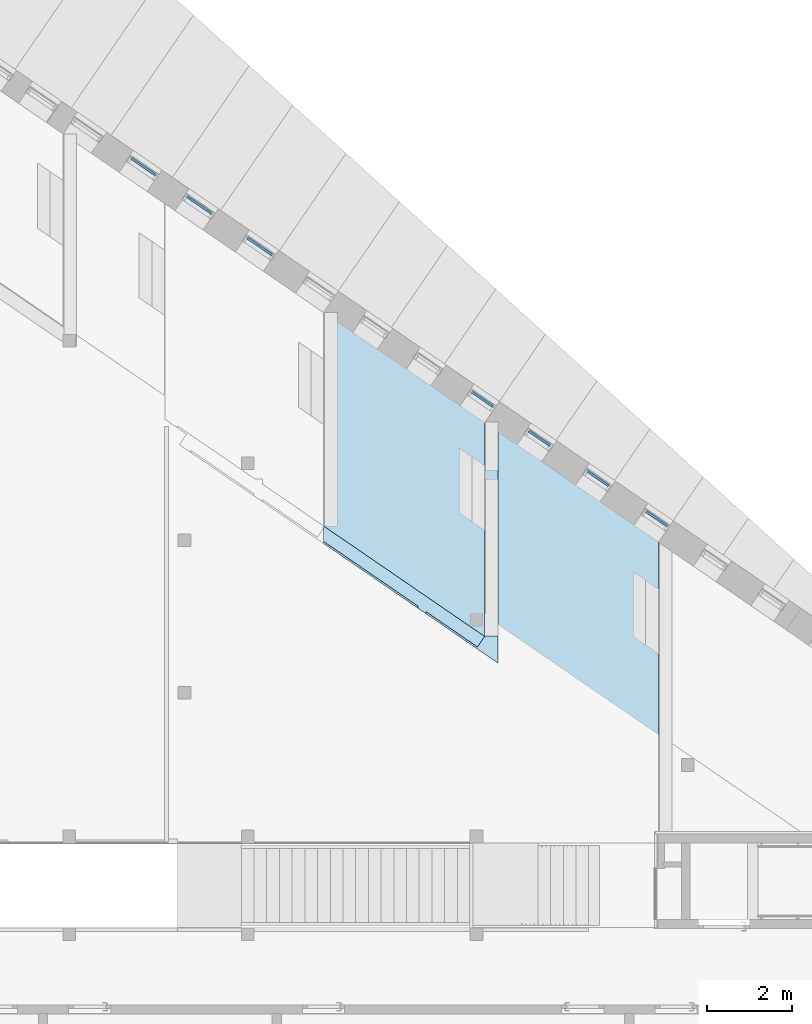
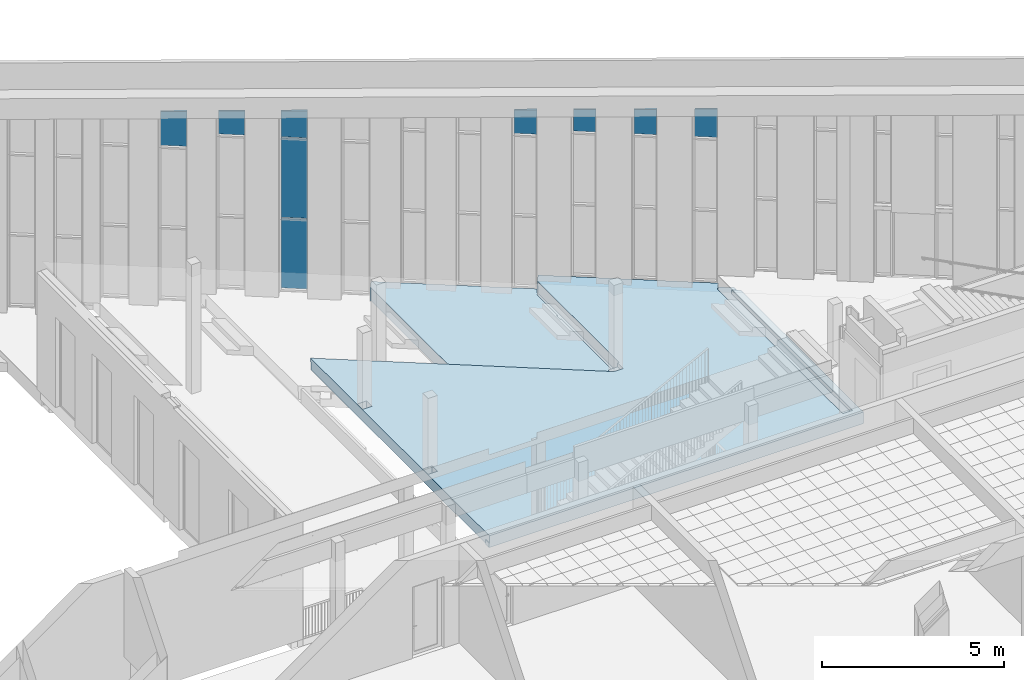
# One storey, part 35 of 79: 9 plates, 2 slabs, 7 elements without a shape of their own.
"""IFC2X3 building model written with IfcOpenShell, lengths in millimetres."""

from ifc_helpers import new_model, entity, si_unit, converted_unit, derived_unit, money_unit, direction, frame, origin_with_axes, place, context, subcontext, project, spatial, faceted_brep, material, material_list, type_object, element, aggregate, save


model = new_model("IFC2X3")

# Units and contexts
model_context = context("Model", 3, precision=0.01, world=origin_with_axes(), true_north=direction((0.0, 1.0)))
body_context = subcontext(model_context, "Body", "Model", "MODEL_VIEW")
ifc_project = project(units=[si_unit("LENGTHUNIT", "METRE", prefix="MILLI"), si_unit("AREAUNIT", "SQUARE_METRE"), si_unit("VOLUMEUNIT", "CUBIC_METRE"), converted_unit("PLANEANGLEUNIT", "DEGREE", entity("IfcPlaneAngleMeasure", 0.0174532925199), si_unit("PLANEANGLEUNIT", "RADIAN"), dimensions=[0, 0, 0, 0, 0, 0, 0]), si_unit("SOLIDANGLEUNIT", "STERADIAN"), money_unit("EUR"), converted_unit("TIMEUNIT", "Year", entity("IfcTimeMeasure", 31556926.0), si_unit("TIMEUNIT", "SECOND"), dimensions=[0, 0, 1, 0, 0, 0, 0]), si_unit("MASSUNIT", "GRAM", prefix="KILO"), si_unit("THERMODYNAMICTEMPERATUREUNIT", "DEGREE_CELSIUS"), si_unit("LUMINOUSINTENSITYUNIT", "LUMEN"), si_unit("ENERGYUNIT", "JOULE", prefix="MEGA"), derived_unit("THERMALCONDUCTANCEUNIT", [(si_unit("POWERUNIT", "WATT"), 1), (si_unit("LENGTHUNIT", "METRE"), -1), (si_unit("THERMODYNAMICTEMPERATUREUNIT", "KELVIN"), -1)]), derived_unit("SPECIFICHEATCAPACITYUNIT", [(si_unit("ENERGYUNIT", "JOULE"), 1), (si_unit("MASSUNIT", "GRAM", prefix="KILO"), -1), (si_unit("THERMODYNAMICTEMPERATUREUNIT", "KELVIN"), -1)]), derived_unit("MASSDENSITYUNIT", [(si_unit("MASSUNIT", "GRAM", prefix="KILO"), 1), (si_unit("VOLUMEUNIT", "CUBIC_METRE"), -1)])], contexts=[model_context])

# Site, building, storey
site_placement = place(None, origin_with_axes())
site = spatial("IfcSite", under=ifc_project, at=site_placement, Name="L.Koidula tn 11b", CompositionType="ELEMENT")
building_placement = place(site_placement, origin_with_axes())
building = spatial("IfcBuilding", under=site, at=building_placement, Name="Rakvere Riigigümnaasium", CompositionType="ELEMENT")
storey_placement = place(building_placement, frame((0.0, 0.0, 3720.0), z_axis=(0.0, 0.0, 1.0), x_axis=(1.0, 0.0, 0.0)))
storey = spatial("IfcBuildingStorey", under=building, at=storey_placement, Name="2.korrus +3,72", CompositionType="ELEMENT", Elevation=3720.0)

# Curtain wall, plate
curtain_wall_type = type_object("IfcCurtainWallType", Name="Curtain Wall Type", PredefinedType="NOTDEFINED")
curtain_wall_1_placement = place(storey_placement, frame((66033.4417184, 31187.4994723, -930.00009489), z_axis=(0.0, 0.0, 1.0), x_axis=(1.0, 0.0, 0.0)))
curtain_wall_1 = element("IfcCurtainWall", 1, at=curtain_wall_1_placement, inside=storey, type_object=curtain_wall_type, Name="KLF-06-15")
ifc_material_1 = material(Name="Klaaspakett 3x")
plate_type_1 = type_object("IfcPlateType", Name="Distinct Panel 726 x 2351 x 54", PredefinedType="CURTAIN_PANEL")
plate_1_placement = place(curtain_wall_1_placement, frame((0.19458261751, -0.133459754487, 1200.00009243), z_axis=(0.0, 0.0, 1.0), x_axis=(-0.824666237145, 0.565619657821, 0.0)))
plate_1 = element("IfcPlate", 2, at=plate_1_placement, type_object=plate_type_1, material=ifc_material_1, Name="KLF-06-15-Klaasid", ObjectType="CURTAIN_PANEL", context=body_context, shape_type="Brep", body=[
    faceted_brep([(-362.67960952, 27.0, 1188.0000915), (-362.67960952, -27.0, 1188.0000915), (362.892401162, -27.0, 1188.0000915), (362.892401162, 27.0, 1188.0000915), (-363.100716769, 27.0, -1163.00008958), (-363.100716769, -27.0, -1163.00008958), (362.892401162, -27.0, -1163.00008958), (362.892401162, 27.0, -1163.00008958)], [[[0, 1, 2, 3]], [[4, 5, 1, 0]], [[1, 5, 6, 2]], [[3, 2, 6, 7]], [[0, 3, 7, 4]], [[7, 6, 5, 4]]]),
])

curtain_wall_2_placement = place(storey_placement, frame((63291.7064528, 33067.985779, -1395.00012232), z_axis=(0.0, 0.0, 1.0), x_axis=(1.0, 0.0, 0.0)))
curtain_wall_2 = element("IfcCurtainWall", 3, at=curtain_wall_2_placement, inside=storey, type_object=curtain_wall_type, Name="KLF-06-17")
plate_type_2 = type_object("IfcPlateType", Name="Distinct Panel 726 x 1137 x 54", PredefinedType="CURTAIN_PANEL")
plate_2_placement = place(curtain_wall_2_placement, frame((0.0, 0.0, 5703.6568376), z_axis=(0.0, 0.0, 1.0), x_axis=(-0.824666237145, 0.565619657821, 0.0)))
plate_2 = element("IfcPlate", 4, at=plate_2_placement, type_object=plate_type_2, material=ifc_material_1, Name="KLF-06-17-Klaasid", ObjectType="CURTAIN_PANEL", context=body_context, shape_type="Brep", body=[
    faceted_brep([(-362.999972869, 27.0, 588.166754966), (-362.999972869, -27.0, 588.166754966), (362.999994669, -27.0, 545.01592382), (362.999994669, 27.0, 545.01592382), (-362.999972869, 27.0, -591.65664199), (-362.999972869, -27.0, -591.65664199), (362.999957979, -27.0, -591.65664199), (362.999957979, 27.0, -591.65664199)], [[[0, 1, 2, 3]], [[4, 5, 1, 0]], [[1, 5, 6, 2]], [[3, 2, 6, 7]], [[0, 3, 7, 4]], [[7, 6, 5, 4]]]),
])
aggregate(curtain_wall_2, [plate_2])

curtain_wall_3_placement = place(storey_placement, frame((64611.1746594, 32162.9974944, -930.000096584), z_axis=(0.0, 0.0, 1.0), x_axis=(1.0, 0.0, 0.0)))
curtain_wall_3 = element("IfcCurtainWall", 5, at=curtain_wall_3_placement, inside=storey, type_object=curtain_wall_type, Name="KLF-06-16")
plate_type_3 = type_object("IfcPlateType", Name="Distinct Panel 726 x 767 x 54", PredefinedType="CURTAIN_PANEL")
plate_3_placement = place(curtain_wall_3_placement, frame((0.0, 0.0, 5518.70601723), z_axis=(0.0, 0.0, 1.0), x_axis=(-0.824666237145, 0.565619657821, 0.0)))
plate_3 = element("IfcPlate", 6, at=plate_3_placement, type_object=plate_type_3, material=ifc_material_1, Name="KLF-06-16-Klaasid", ObjectType="CURTAIN_PANEL", context=body_context, shape_type="Brep", body=[
    faceted_brep([(-363.00003346, 27.0, 403.216068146), (-363.00003346, -27.0, 403.216068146), (363.00003772, -27.0, 360.065122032), (363.00003772, 27.0, 360.065122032), (-363.000046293, 27.0, -406.705893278), (-363.000046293, -27.0, -406.705893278), (363.000050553, -27.0, -406.705893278), (363.000050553, 27.0, -406.705893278)], [[[0, 1, 2, 3]], [[4, 5, 1, 0]], [[1, 5, 6, 2]], [[3, 2, 6, 7]], [[0, 3, 7, 4]], [[7, 6, 5, 4]]]),
])
aggregate(curtain_wall_3, [plate_3])

# Plate
plate_type_4 = type_object("IfcPlateType", Name="Distinct Panel 725 x 2676 x 54", PredefinedType="CURTAIN_PANEL")
plate_4_placement = place(curtain_wall_1_placement, frame((0.0, 0.0, 3750.00018486), z_axis=(0.0, 0.0, 1.0), x_axis=(-0.824666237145, 0.565619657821, 0.0)))
plate_4 = element("IfcPlate", 7, at=plate_4_placement, type_object=plate_type_4, material=ifc_material_1, Name="KLF-06-15-Klaasid", ObjectType="CURTAIN_PANEL", context=body_context, shape_type="Brep", body=[
    faceted_brep([(-362.401779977, 27.0, 1338.00001341), (-362.401779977, -27.0, 1338.00001341), (362.656455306, -27.0, 1338.00001341), (362.656455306, 27.0, 1338.00001341), (-362.911131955, 27.0, -1338.00001341), (-362.911131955, -27.0, -1338.00001341), (362.656455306, -27.0, -1338.00001341), (362.656455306, 27.0, -1338.00001341)], [[[0, 1, 2, 3]], [[4, 5, 1, 0]], [[1, 5, 6, 2]], [[3, 2, 6, 7]], [[0, 3, 7, 4]], [[7, 6, 5, 4]]]),
])

plate_type_5 = type_object("IfcPlateType", Name="Distinct Panel 725 x 869 x 54", PredefinedType="CURTAIN_PANEL")
plate_5_placement = place(curtain_wall_1_placement, frame((65.7425871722, -45.091332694, 5634.69307532), z_axis=(0.0, 0.0, 1.0), x_axis=(-0.824666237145, 0.565619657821, 0.0)))
plate_5 = element("IfcPlate", 8, at=plate_5_placement, type_object=plate_type_5, material=ifc_material_1, Name="KLF-06-15-Klaasid", ObjectType="CURTAIN_PANEL", context=body_context, shape_type="Brep", body=[
    faceted_brep([(-282.537075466, 27.0, 389.692360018), (-282.537075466, -27.0, 389.692360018), (442.376687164, -27.0, 346.606023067), (442.376687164, 27.0, 346.606023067), (-282.537075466, 27.0, 258.953486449), (-282.537075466, -27.0, 258.953486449), (-282.67708072, -27.0, -522.692889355), (442.376687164, -27.0, -522.692889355), (442.376687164, 27.0, -522.692889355), (-282.67708072, 27.0, -522.692889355)], [[[0, 1, 2, 3]], [[4, 5, 1, 0]], [[1, 5, 6, 7, 2]], [[3, 2, 7, 8]], [[0, 3, 8, 9, 4]], [[9, 6, 5, 4]], [[8, 7, 6, 9]]]),
])

aggregate(curtain_wall_1, [plate_4, plate_5, plate_1])

# Curtain wall, plate
curtain_wall_4_placement = place(storey_placement, frame((71295.0958138, 27578.652128, -465.0), z_axis=(0.0, 0.0, 1.0), x_axis=(1.0, 0.0, 0.0)))
curtain_wall_4 = element("IfcCurtainWall", 9, at=curtain_wall_4_placement, inside=storey, type_object=curtain_wall_type, Name="KLF-06-11")
plate_type_6 = type_object("IfcPlateType", Name="Distinct Panel 626 x 786 x 54", PredefinedType="CURTAIN_PANEL")
plate_6_placement = place(curtain_wall_4_placement, frame((0.0, 0.0, 5527.07233114), z_axis=(0.0, 0.0, 1.0), x_axis=(-0.824666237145, 0.565619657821, 0.0)))
plate_6 = element("IfcPlate", 10, at=plate_6_placement, type_object=plate_type_6, material=ifc_material_1, Name="KLF-06-11-Klaasid", ObjectType="CURTAIN_PANEL", context=body_context, shape_type="Brep", body=[
    faceted_brep([(-312.999897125, 27.0, 408.610584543), (-312.999897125, -27.0, 408.610584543), (312.999875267, -27.0, 371.403355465), (312.999875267, 27.0, 371.403355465), (-312.999884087, 27.0, -415.072262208), (-312.999884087, -27.0, -415.072262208), (312.999914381, -27.0, -415.072262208), (312.999914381, 27.0, -415.072262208)], [[[0, 1, 2, 3]], [[4, 5, 1, 0]], [[1, 5, 6, 2]], [[3, 2, 6, 7]], [[0, 3, 7, 4]], [[7, 6, 5, 4]]]),
])
aggregate(curtain_wall_4, [plate_6])

curtain_wall_5_placement = place(storey_placement, frame((72639.3001548, 26656.6898396, 0.0), z_axis=(0.0, 0.0, 1.0), x_axis=(1.0, 0.0, 0.0)))
curtain_wall_5 = element("IfcCurtainWall", 11, at=curtain_wall_5_placement, inside=storey, type_object=curtain_wall_type, Name="KLF-06-10")
plate_type_7 = type_object("IfcPlateType", Name="Distinct Panel 626 x 718 x 54", PredefinedType="CURTAIN_PANEL")
plate_7_placement = place(curtain_wall_5_placement, frame((0.0, 0.0, 5193.01306707), z_axis=(0.0, 0.0, 1.0), x_axis=(-0.824666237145, 0.565619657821, 0.0)))
plate_7 = element("IfcPlate", 12, at=plate_7_placement, type_object=plate_type_7, material=ifc_material_1, Name="KLF-06-10-Klaasid", ObjectType="CURTAIN_PANEL", context=body_context, shape_type="Brep", body=[
    faceted_brep([(-312.999936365, 27.0, 374.551304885), (-312.999936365, -27.0, 374.551304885), (313.000026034, -27.0, 337.344100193), (313.000026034, 27.0, 337.344100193), (-312.999936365, 27.0, -381.013004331), (-312.999936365, -27.0, -381.013004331), (312.999845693, -27.0, -381.013004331), (312.999845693, 27.0, -381.013004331)], [[[0, 1, 2, 3]], [[4, 5, 1, 0]], [[1, 5, 6, 2]], [[3, 2, 6, 7]], [[0, 3, 7, 4]], [[7, 6, 5, 4]]]),
])
aggregate(curtain_wall_5, [plate_7])

curtain_wall_6_placement = place(storey_placement, frame((74020.6159263, 25709.2765329, 0.0), z_axis=(0.0, 0.0, 1.0), x_axis=(1.0, 0.0, 0.0)))
curtain_wall_6 = element("IfcCurtainWall", 13, at=curtain_wall_6_placement, inside=storey, type_object=curtain_wall_type, Name="KLF-06-09")
plate_type_8 = type_object("IfcPlateType", Name="Distinct Panel 626 x 818 x 54", PredefinedType="CURTAIN_PANEL")
plate_8_placement = place(curtain_wall_6_placement, frame((0.0, 0.0, 5242.79115467), z_axis=(0.0, 0.0, 1.0), x_axis=(-0.824666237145, 0.565619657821, 0.0)))
plate_8 = element("IfcPlate", 14, at=plate_8_placement, type_object=plate_type_8, material=ifc_material_1, Name="KLF-06-09-Klaasid", ObjectType="CURTAIN_PANEL", context=body_context, shape_type="Brep", body=[
    faceted_brep([(-312.999899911, 27.0, 424.329448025), (-312.999899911, -27.0, 424.329448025), (313.000079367, -27.0, 387.122145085), (313.000079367, 27.0, 387.122145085), (-313.000102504, 27.0, -430.791086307), (-313.000102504, -27.0, -430.791086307), (312.999903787, -27.0, -430.791086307), (312.999903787, 27.0, -430.791086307)], [[[0, 1, 2, 3]], [[4, 5, 1, 0]], [[1, 5, 6, 2]], [[3, 2, 6, 7]], [[0, 3, 7, 4]], [[7, 6, 5, 4]]]),
])
aggregate(curtain_wall_6, [plate_8])

curtain_wall_7_placement = place(storey_placement, frame((75401.9316286, 24761.8632578, 0.0), z_axis=(0.0, 0.0, 1.0), x_axis=(1.0, 0.0, 0.0)))
curtain_wall_7 = element("IfcCurtainWall", 15, at=curtain_wall_7_placement, inside=storey, type_object=curtain_wall_type, Name="KLF-06-08")
plate_type_9 = type_object("IfcPlateType", Name="Distinct Panel 626 x 917 x 54", PredefinedType="CURTAIN_PANEL")
plate_9_placement = place(curtain_wall_7_placement, frame((-1.29880390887e-05, 8.9081986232e-06, 5292.56921371), z_axis=(0.0, 0.0, 1.0), x_axis=(-0.824666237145, 0.565619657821, 0.0)))
plate_9 = element("IfcPlate", 16, at=plate_9_placement, type_object=plate_type_9, material=ifc_material_1, Name="KLF-06-08-Klaasid", ObjectType="CURTAIN_PANEL", context=body_context, shape_type="Brep", body=[
    faceted_brep([(-312.999896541, 27.0, 474.107515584), (-312.999896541, -27.0, 474.107515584), (313.00005068, -27.0, 436.900205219), (313.00005068, 27.0, 436.900205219), (-313.000016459, 27.0, -480.569155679), (-313.000016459, -27.0, -480.569155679), (312.999840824, -27.0, -480.569155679), (312.999840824, 27.0, -480.569155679)], [[[0, 1, 2, 3]], [[4, 5, 1, 0]], [[1, 5, 6, 2]], [[3, 2, 6, 7]], [[0, 3, 7, 4]], [[7, 6, 5, 4]]]),
])
aggregate(curtain_wall_7, [plate_9])

# Slabs
ifc_material_2 = material(Name="Parkett")
ifc_material_3 = material(Name="Betoon")
ifc_material_4 = material(Name="Mürasummutus vill")
ifc_material_5 = material(Name="Betoon õõnespaneel")
ifc_material_list = material_list([ifc_material_2, ifc_material_3, ifc_material_4, ifc_material_5])
slab_type_1 = type_object("IfcSlabType", Name="VL-03 445", PredefinedType="NOTDEFINED")
slab_1_placement = place(storey_placement, frame((67710.3477516, 29874.8581055, -465.0), z_axis=(0.0, 0.0, 1.0), x_axis=(1.0, 0.0, 0.0)))
element("IfcSlab", 17, at=slab_1_placement, inside=storey, type_object=slab_type_1, material=ifc_material_list, Name="Suured astmed", PredefinedType="NOTDEFINED", context=body_context, shape_type="Brep", body=[
    faceted_brep([(2054.6395782, -7173.68883036, -10.0), (2054.6395782, -7173.68883036, 0.0), (2054.6395782, -7223.40251503, 0.0), (2054.6395782, -7223.40251503, -10.0), (-165.33824964, -5651.1462538, 4.02478050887e-09), (-165.33824964, -5651.1462538, -9.99999999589), (-165.33824964, -5700.86031053, 0.0), (-165.33824964, -5700.86031053, -10.0)], [[[0, 1, 2, 3]], [[4, 1, 0, 5]], [[1, 4, 6, 2]], [[3, 2, 6, 7]], [[5, 0, 3, 7]], [[4, 5, 7, 6]]]),
    faceted_brep([(3463.72556272, -8140.09190815, 0.0), (2254.6395782, -7310.8561982, 0.0), (2254.6395782, -7360.56984935, 0.0), (3949.65030634, -8523.07036548, 0.0), (3949.6503213, -7877.05428676, 0.0), (3629.6503213, -7877.05428676, 0.0), (3629.6503213, -4175.42087358, 0.0), (3590.78957189, -4175.42087358, 0.0), (3590.78957189, -3975.42087358, 0.0), (3629.6503213, -3975.42087358, 0.0), (3629.6503213, -2853.276923, 0.0), (3799.33652425, -2605.87726147, 0.0), (0.0, 0.0, 0.0), (-165.33824964, -241.186872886, 0.0), (-165.33824964, -250.385662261, 0.0), (-155.33824964, -257.244421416, 0.0), (-155.33824964, -5294.23038187, 0.0), (-145.031093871, -5301.29693856, 0.0), (3633.40469198, -7892.68739507, 0.0), (3463.72556272, -8140.09190815, -10.0), (2254.6395782, -7310.8561982, -10.0), (2254.6395782, -7360.56984935, -10.0), (3949.65030634, -8523.07036548, -10.0), (3949.6503213, -7877.05428676, -10.0), (3629.6503213, -7877.05428676, -10.0), (3629.6503213, -4175.42087358, -10.0), (3590.78957189, -4175.42087358, -10.0), (3590.78957189, -3975.42087358, -10.0), (3629.6503213, -3975.42087358, -10.0), (3629.6503213, -2853.276923, -10.0), (3799.33652425, -2605.87726147, -10.0), (0.0, 0.0, -10.0), (-165.33824964, -241.186872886, -10.0), (-165.33824964, -250.385662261, -10.0), (-155.33824964, -257.244421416, -10.0), (-155.33824964, -5294.23038187, -10.0), (-145.031093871, -5301.29693856, -10.0), (3633.40469198, -7892.68739507, -10.0)], [[[0, 1, 2, 3, 4, 5, 6, 7, 8, 9, 10, 11, 12, 13, 14, 15, 16, 17, 18]], [[1, 0, 19, 20]], [[1, 20, 21, 2]], [[2, 21, 22, 3]], [[4, 3, 22, 23]], [[4, 23, 24, 5]], [[24, 25, 6, 5]], [[7, 6, 25, 26]], [[27, 8, 7, 26]], [[27, 28, 9, 8]], [[28, 29, 10, 9]], [[11, 10, 29, 30]], [[12, 11, 30, 31]], [[32, 13, 12, 31]], [[33, 14, 13, 32]], [[15, 14, 33, 34]], [[16, 15, 34, 35]], [[36, 17, 16, 35]], [[18, 17, 36, 37]], [[0, 18, 37, 19]], [[37, 36, 35, 34, 33, 32, 31, 30, 29, 28, 27, 26, 25, 24, 23, 22, 21, 20, 19]]]),
    faceted_brep([(2054.6395782, -7173.68883036, -100.0), (2054.6395782, -7173.68883036, -10.0), (2054.6395782, -7223.40251503, -10.0), (2054.6395782, -7223.40251503, -100.0), (-165.33824964, -5651.1462538, -10.0), (-165.33824964, -5651.1462538, -99.9999999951), (-165.33824964, -5700.86031053, -10.0), (-165.33824964, -5700.86031053, -100.0)], [[[0, 1, 2, 3]], [[4, 1, 0, 5]], [[1, 4, 6, 2]], [[3, 2, 6, 7]], [[5, 0, 3, 7]], [[4, 5, 7, 6]]]),
    faceted_brep([(3463.72556272, -8140.09190815, -10.0), (2254.6395782, -7310.8561982, -10.0), (2254.6395782, -7360.56984935, -10.0), (3949.65030634, -8523.07036548, -10.0), (3949.6503213, -7877.05428676, -10.0), (3629.6503213, -7877.05428676, -10.0), (3629.6503213, -4175.42087358, -10.0), (3590.78957189, -4175.42087358, -10.0), (3590.78957189, -3975.42087358, -10.0), (3629.6503213, -3975.42087358, -10.0), (3629.6503213, -2853.276923, -10.0), (3799.33652425, -2605.87726147, -10.0), (0.0, 0.0, -10.0), (-165.33824964, -241.186872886, -10.0), (-165.33824964, -250.385662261, -10.0), (-155.33824964, -257.244421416, -10.0), (-155.33824964, -5294.23038187, -10.0), (-145.031093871, -5301.29693856, -10.0), (3633.40469198, -7892.68739507, -10.0), (3463.72556272, -8140.09190815, -100.0), (2254.6395782, -7310.8561982, -100.0), (2254.6395782, -7360.56984935, -100.0), (3949.65030634, -8523.07036548, -100.0), (3949.6503213, -7877.05428676, -100.0), (3629.6503213, -7877.05428676, -100.0), (3629.6503213, -4175.42087358, -100.0), (3590.78957189, -4175.42087358, -100.0), (3590.78957189, -3975.42087358, -100.0), (3629.6503213, -3975.42087358, -100.0), (3629.6503213, -2853.276923, -100.0), (3799.33652425, -2605.87726147, -100.0), (0.0, 0.0, -100.0), (-165.33824964, -241.186872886, -100.0), (-165.33824964, -250.385662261, -100.0), (-155.33824964, -257.244421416, -100.0), (-155.33824964, -5294.23038187, -100.0), (-145.031093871, -5301.29693856, -100.0), (3633.40469198, -7892.68739507, -100.0)], [[[0, 1, 2, 3, 4, 5, 6, 7, 8, 9, 10, 11, 12, 13, 14, 15, 16, 17, 18]], [[1, 0, 19, 20]], [[1, 20, 21, 2]], [[2, 21, 22, 3]], [[4, 3, 22, 23]], [[4, 23, 24, 5]], [[24, 25, 6, 5]], [[7, 6, 25, 26]], [[27, 8, 7, 26]], [[27, 28, 9, 8]], [[28, 29, 10, 9]], [[11, 10, 29, 30]], [[12, 11, 30, 31]], [[32, 13, 12, 31]], [[33, 14, 13, 32]], [[15, 14, 33, 34]], [[16, 15, 34, 35]], [[36, 17, 16, 35]], [[18, 17, 36, 37]], [[0, 18, 37, 19]], [[37, 36, 35, 34, 33, 32, 31, 30, 29, 28, 27, 26, 25, 24, 23, 22, 21, 20, 19]]]),
    faceted_brep([(2054.6395782, -7173.68883036, -180.0), (2054.6395782, -7173.68883036, -100.0), (2054.6395782, -7223.40251503, -100.0), (2054.6395782, -7223.40251503, -180.0), (-165.33824964, -5651.1462538, -100.0), (-165.33824964, -5651.1462538, -180.0), (-165.33824964, -5700.86031053, -100.0), (-165.33824964, -5700.86031053, -180.0)], [[[0, 1, 2, 3]], [[4, 1, 0, 5]], [[1, 4, 6, 2]], [[3, 2, 6, 7]], [[5, 0, 3, 7]], [[4, 5, 7, 6]]]),
    faceted_brep([(3463.72556272, -8140.09190815, -100.0), (2254.6395782, -7310.8561982, -100.0), (2254.6395782, -7360.56984935, -100.0), (3949.65030634, -8523.07036548, -100.0), (3949.6503213, -7877.05428676, -100.0), (3629.6503213, -7877.05428676, -100.0), (3629.6503213, -4175.42087358, -100.0), (3590.78957189, -4175.42087358, -100.0), (3590.78957189, -3975.42087358, -100.0), (3629.6503213, -3975.42087358, -100.0), (3629.6503213, -2853.276923, -100.0), (3799.33652425, -2605.87726147, -100.0), (0.0, 0.0, -100.0), (-165.33824964, -241.186872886, -100.0), (-165.33824964, -250.385662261, -100.0), (-155.33824964, -257.244421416, -100.0), (-155.33824964, -5294.23038187, -100.0), (-145.031093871, -5301.29693856, -100.0), (3633.40469198, -7892.68739507, -100.0), (3463.72556272, -8140.09190815, -180.0), (2254.6395782, -7310.8561982, -180.0), (2254.6395782, -7360.56984935, -180.0), (3949.65030634, -8523.07036548, -180.0), (3949.6503213, -7877.05428676, -180.0), (3629.6503213, -7877.05428676, -180.0), (3629.6503213, -4175.42087358, -180.0), (3590.78957189, -4175.42087358, -180.0), (3590.78957189, -3975.42087358, -180.0), (3629.6503213, -3975.42087358, -180.0), (3629.6503213, -2853.276923, -180.0), (3799.33652425, -2605.87726147, -180.0), (0.0, 0.0, -180.0), (-165.33824964, -241.186872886, -180.0), (-165.33824964, -250.385662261, -180.0), (-155.33824964, -257.244421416, -180.0), (-155.33824964, -5294.23038187, -180.0), (-145.031093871, -5301.29693856, -180.0), (3633.40469198, -7892.68739507, -180.0)], [[[0, 1, 2, 3, 4, 5, 6, 7, 8, 9, 10, 11, 12, 13, 14, 15, 16, 17, 18]], [[1, 0, 19, 20]], [[1, 20, 21, 2]], [[2, 21, 22, 3]], [[4, 3, 22, 23]], [[4, 23, 24, 5]], [[24, 25, 6, 5]], [[7, 6, 25, 26]], [[27, 8, 7, 26]], [[27, 28, 9, 8]], [[28, 29, 10, 9]], [[11, 10, 29, 30]], [[12, 11, 30, 31]], [[32, 13, 12, 31]], [[33, 14, 13, 32]], [[15, 14, 33, 34]], [[16, 15, 34, 35]], [[36, 17, 16, 35]], [[18, 17, 36, 37]], [[0, 18, 37, 19]], [[37, 36, 35, 34, 33, 32, 31, 30, 29, 28, 27, 26, 25, 24, 23, 22, 21, 20, 19]]]),
    faceted_brep([(-145.33824964, -264.103180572, -180.0), (-145.33824964, -5301.08635344, -180.0), (-165.33824964, -5287.37441031, -180.0), (-165.33824964, -5700.86031053, -180.0), (3949.65030634, -8523.07036548, -180.0), (3949.65044095, -2708.97365417, -180.0), (0.0, 0.0, -180.0), (-165.33824964, -241.186872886, -180.0), (-165.33824964, -250.385662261, -180.0), (-145.33824964, -5301.08635344, -445.0), (-145.33824964, -264.103180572, -445.0), (-165.33824964, -5287.37441031, -445.0), (-165.33824964, -5700.86031053, -445.0), (3949.65030634, -8523.07036548, -445.0), (3949.65044095, -2708.97365417, -445.0), (0.0, 0.0, -445.0), (-165.33824964, -241.186872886, -445.0), (-165.33824964, -250.385662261, -445.0)], [[[0, 1, 2, 3, 4, 5, 6, 7, 8]], [[9, 1, 0, 10]], [[2, 1, 9, 11]], [[3, 2, 11, 12]], [[4, 3, 12, 13]], [[5, 4, 13, 14]], [[6, 5, 14, 15]], [[7, 6, 15, 16]], [[16, 17, 8, 7]], [[17, 10, 0, 8]], [[9, 10, 17, 16, 15, 14, 13, 12, 11]]]),
])
slab_type_2 = type_object("IfcSlabType", Name="VL-01 395", PredefinedType="NOTDEFINED")
slab_2_placement = place(storey_placement, frame((70999.998123, 22218.7533222, 0.0), z_axis=(0.0, 0.0, 1.0), x_axis=(1.0, 0.0, 0.0)))
element("IfcSlab", 18, at=slab_2_placement, inside=storey, type_object=slab_type_2, material=ifc_material_list, Name="Astmed", PredefinedType="NOTDEFINED", context=body_context, shape_type="Brep", body=[
    faceted_brep([(299.999949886, 1.45192373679e-05, -10.0), (299.999949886, 300.000014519, -10.0), (339.999949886, 299.999960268, -10.0), (349.999949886, 299.999960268, -10.0), (349.999949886, 4795.9690715, -10.0), (339.999992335, 4802.82205244, -10.0000000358), (509.688477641, 5050.22573048, -10.0), (4614.77146797, 2234.63450514, -10.0), (4445.089857, 1987.24084583, -10.0), (4445.089857, -4898.29778061, -10.0), (4765.089857, -4898.29778061, -10.0), (4765.089857, 1767.7674956, -10.0), (4979.98176475, 1620.37806475, -10.0), (4979.98176475, -5108.29781741, -10.0), (-6899.99812269, -5108.29779969, -10.0), (-6899.99812269, 4730.61909011, -10.0), (-5.01137691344e-05, 1.45192373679e-05, -10.0), (-6889.97719199, -1718.2901615, -10.0), (-6589.97719199, -1718.2901615, -10.0), (-6589.97719199, -1418.2901615, -10.0), (-6889.97719199, -1418.2901615, -10.0), (-6889.97719199, 1881.70222499, -10.0), (-6589.97719199, 1881.70222499, -10.0), (-6589.97719199, 2181.70222499, -10.0), (-6889.97719199, 2181.70222499, -10.0), (299.999949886, 1.45192373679e-05, 0.0), (299.999949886, 300.000014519, 0.0), (339.999949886, 299.999960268, 0.0), (349.999949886, 299.999960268, 0.0), (349.999949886, 4795.9690715, 0.0), (339.999949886, 4802.82199055, 0.0), (509.688477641, 5050.22573048, 0.0), (4614.77146797, 2234.63450514, 0.0), (4445.089857, 1987.24084583, 0.0), (4445.089857, -4898.29778061, 0.0), (4765.089857, -4898.29778061, 0.0), (4765.089857, 1767.7674956, 0.0), (4979.98176475, 1620.37806475, 0.0), (4979.98176475, -5108.29781741, 0.0), (-6899.99812269, -5108.29779969, 0.0), (-6899.99812269, 4730.61909011, 0.0), (-5.01137691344e-05, 1.45192373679e-05, 0.0), (-6889.97719199, -1718.2901615, 0.0), (-6589.97719199, -1718.2901615, 0.0), (-6589.97719199, -1418.2901615, 0.0), (-6889.97719199, -1418.2901615, 0.0), (-6889.97719199, 1881.70222499, 0.0), (-6589.97719199, 1881.70222499, 0.0), (-6589.97719199, 2181.70222499, 0.0), (-6889.97719199, 2181.70222499, 0.0)], [[[0, 1, 2, 3, 4, 5, 6, 7, 8, 9, 10, 11, 12, 13, 14, 15, 16], [17, 18, 19, 20], [21, 22, 23, 24]], [[25, 26, 1, 0]], [[1, 26, 27, 2]], [[2, 27, 28, 3]], [[3, 28, 29, 4]], [[4, 29, 30, 5]], [[6, 5, 30, 31]], [[31, 32, 7, 6]], [[32, 33, 8, 7]], [[9, 8, 33, 34]], [[35, 10, 9, 34]], [[10, 35, 36, 11]], [[12, 11, 36, 37]], [[13, 12, 37, 38]], [[38, 39, 14, 13]], [[14, 39, 40, 15]], [[41, 16, 15, 40]], [[41, 25, 0, 16]], [[42, 43, 18, 17]], [[43, 44, 19, 18]], [[44, 45, 20, 19]], [[45, 42, 17, 20]], [[46, 47, 22, 21]], [[47, 48, 23, 22]], [[48, 49, 24, 23]], [[49, 46, 21, 24]], [[25, 41, 40, 39, 38, 37, 36, 35, 34, 33, 32, 31, 30, 29, 28, 27, 26], [42, 45, 44, 43], [46, 49, 48, 47]]]),
    faceted_brep([(299.999949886, 1.45192373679e-05, -100.0), (299.999949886, 300.000014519, -100.0), (339.999949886, 299.999960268, -100.0), (349.999949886, 299.999960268, -100.0), (349.999949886, 4795.9690715, -100.0), (340.000374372, 4802.82260944, -100.000000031), (509.688477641, 5050.22573048, -100.0), (4614.77146797, 2234.63450514, -100.0), (4445.089857, 1987.24084583, -100.0), (4445.089857, -4898.29778061, -100.0), (4765.089857, -4898.29778061, -100.0), (4765.089857, 1767.7674956, -100.0), (4979.98176475, 1620.37806475, -100.0), (4979.98176475, -5108.29781741, -100.0), (-6899.99812269, -5108.29779969, -100.0), (-6899.99812269, 4730.61909011, -100.0), (-5.01137691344e-05, 1.45192373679e-05, -100.0), (-6889.97719199, -1718.2901615, -100.0), (-6589.97719199, -1718.2901615, -100.0), (-6589.97719199, -1418.2901615, -100.0), (-6889.97719199, -1418.2901615, -100.0), (-6889.97719199, 1881.70222499, -100.0), (-6589.97719199, 1881.70222499, -100.0), (-6589.97719199, 2181.70222499, -100.0), (-6889.97719199, 2181.70222499, -100.0), (299.999949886, 1.45192373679e-05, -10.0), (299.999949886, 300.000014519, -10.0), (339.999949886, 299.999960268, -10.0), (349.999949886, 299.999960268, -10.0), (349.999949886, 4795.9690715, -10.0), (339.999992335, 4802.82205244, -10.0000000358), (509.688477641, 5050.22573048, -10.0), (4614.77146797, 2234.63450514, -10.0), (4445.089857, 1987.24084583, -10.0), (4445.089857, -4898.29778061, -10.0), (4765.089857, -4898.29778061, -10.0), (4765.089857, 1767.7674956, -10.0), (4979.98176475, 1620.37806475, -10.0), (4979.98176475, -5108.29781741, -10.0), (-6899.99812269, -5108.29779969, -10.0), (-6899.99812269, 4730.61909011, -10.0), (-5.01137691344e-05, 1.45192373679e-05, -10.0), (-6889.97719199, -1718.2901615, -10.0), (-6589.97719199, -1718.2901615, -10.0), (-6589.97719199, -1418.2901615, -10.0), (-6889.97719199, -1418.2901615, -10.0), (-6889.97719199, 1881.70222499, -10.0), (-6589.97719199, 1881.70222499, -10.0), (-6589.97719199, 2181.70222499, -10.0), (-6889.97719199, 2181.70222499, -10.0)], [[[0, 1, 2, 3, 4, 5, 6, 7, 8, 9, 10, 11, 12, 13, 14, 15, 16], [17, 18, 19, 20], [21, 22, 23, 24]], [[25, 26, 1, 0]], [[1, 26, 27, 2]], [[2, 27, 28, 3]], [[3, 28, 29, 4]], [[4, 29, 30, 5]], [[6, 5, 30, 31]], [[31, 32, 7, 6]], [[32, 33, 8, 7]], [[9, 8, 33, 34]], [[35, 10, 9, 34]], [[10, 35, 36, 11]], [[12, 11, 36, 37]], [[13, 12, 37, 38]], [[38, 39, 14, 13]], [[14, 39, 40, 15]], [[41, 16, 15, 40]], [[41, 25, 0, 16]], [[42, 43, 18, 17]], [[43, 44, 19, 18]], [[44, 45, 20, 19]], [[45, 42, 17, 20]], [[46, 47, 22, 21]], [[47, 48, 23, 22]], [[48, 49, 24, 23]], [[49, 46, 21, 24]], [[25, 41, 40, 39, 38, 37, 36, 35, 34, 33, 32, 31, 30, 29, 28, 27, 26], [42, 45, 44, 43], [46, 49, 48, 47]]]),
    faceted_brep([(299.999949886, 1.45192373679e-05, -130.0), (299.999949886, 300.000014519, -130.0), (339.999907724, 299.999960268, -130.0), (349.999949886, 299.999960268, -130.0), (349.999949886, 4795.9690715, -130.0), (339.999907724, 4802.82192907, -130.0), (509.688477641, 5050.22573048, -130.0), (4614.77146797, 2234.63450514, -130.0), (4445.089857, 1987.24084583, -130.0), (4445.089857, -4898.29778061, -130.0), (4765.089857, -4898.29778061, -130.0), (4765.089857, 1767.7674956, -130.0), (4979.98176475, 1620.37806475, -130.0), (4979.98176475, -5108.29781741, -130.0), (-6899.99812269, -5108.29779969, -130.0), (-6899.99812269, 4730.61909011, -130.0), (-5.01137691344e-05, 1.45192373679e-05, -130.0), (-6889.97719199, -1718.2901615, -130.0), (-6589.97719199, -1718.2901615, -130.0), (-6589.97719199, -1418.2901615, -130.0), (-6889.97719199, -1418.2901615, -130.0), (-6889.97719199, 1881.70222499, -130.0), (-6589.97719199, 1881.70222499, -130.0), (-6589.97719199, 2181.70222499, -130.0), (-6889.97719199, 2181.70222499, -130.0), (299.999949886, 1.45192373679e-05, -100.0), (299.999949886, 300.000014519, -100.0), (339.999907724, 299.999960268, -100.0), (349.999949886, 299.999960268, -100.0), (349.999949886, 4795.9690715, -100.0), (339.999907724, 4802.82192907, -100.0), (509.688477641, 5050.22573048, -100.0), (4614.77146797, 2234.63450514, -100.0), (4445.089857, 1987.24084583, -100.0), (4445.089857, -4898.29778061, -100.0), (4765.089857, -4898.29778061, -100.0), (4765.089857, 1767.7674956, -100.0), (4979.98176475, 1620.37806475, -100.0), (4979.98176475, -5108.29781741, -100.0), (-6899.99812269, -5108.29779969, -100.0), (-6899.99812269, 4730.61909011, -100.0), (-5.01137691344e-05, 1.45192373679e-05, -100.0), (-6889.97719199, -1718.2901615, -100.0), (-6589.97719199, -1718.2901615, -100.0), (-6589.97719199, -1418.2901615, -100.0), (-6889.97719199, -1418.2901615, -100.0), (-6889.97719199, 1881.70222499, -100.0), (-6589.97719199, 1881.70222499, -100.0), (-6589.97719199, 2181.70222499, -100.0), (-6889.97719199, 2181.70222499, -100.0)], [[[0, 1, 2, 3, 4, 5, 6, 7, 8, 9, 10, 11, 12, 13, 14, 15, 16], [17, 18, 19, 20], [21, 22, 23, 24]], [[25, 26, 1, 0]], [[1, 26, 27, 2]], [[3, 2, 27, 28]], [[28, 29, 4, 3]], [[5, 4, 29, 30]], [[31, 6, 5, 30]], [[31, 32, 7, 6]], [[32, 33, 8, 7]], [[33, 34, 9, 8]], [[35, 10, 9, 34]], [[36, 11, 10, 35]], [[37, 12, 11, 36]], [[37, 38, 13, 12]], [[14, 13, 38, 39]], [[15, 14, 39, 40]], [[41, 16, 15, 40]], [[41, 25, 0, 16]], [[42, 43, 18, 17]], [[43, 44, 19, 18]], [[44, 45, 20, 19]], [[45, 42, 17, 20]], [[46, 47, 22, 21]], [[47, 48, 23, 22]], [[48, 49, 24, 23]], [[49, 46, 21, 24]], [[25, 41, 40, 39, 38, 37, 36, 35, 34, 33, 32, 31, 30, 29, 28, 27, 26], [42, 45, 44, 43], [46, 49, 48, 47]]]),
    faceted_brep([(359.999949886, 299.999960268, -395.0), (359.999949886, 4789.11028269, -395.0), (340.001626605, 4802.82443518, -395.000000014), (509.688477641, 5050.22573048, -395.0), (4979.98176475, 1984.14434223, -395.0), (4979.98176475, -5108.29781741, -395.0), (-6909.97719199, -5108.29781741, -395.0), (-6909.97719199, -4908.29779969, -395.0), (-6889.99812269, -4908.29779969, -395.0), (-6889.99812269, 4723.76311855, -395.0), (0.0, 0.0, -395.0), (0.0, 299.999960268, -395.0), (339.999949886, 299.999960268, -395.0), (-6889.97719199, -1718.2901615, -395.0), (-6589.97719199, -1718.2901615, -395.0), (-6589.97719199, -1418.2901615, -395.0), (-6889.97719199, -1418.2901615, -395.0), (-6889.97719199, 1881.70222499, -395.0), (-6589.97719199, 1881.70222499, -395.0), (-6589.97719199, 2181.70222499, -395.0), (-6889.97719199, 2181.70222499, -395.0), (359.999949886, 299.999960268, -130.0), (359.999949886, 4789.11028269, -130.0), (340.000501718, 4802.82279511, -130.000000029), (509.688477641, 5050.22573048, -130.0), (4979.98176475, 1984.14434223, -130.0), (4979.98176475, -5108.29781741, -130.0), (-6889.99812269, -5108.29779969, -130.0), (-6889.99812269, -5108.29779969, -250.0), (-6909.97719199, -5108.29779969, -250.0), (-6909.97719199, -4908.29779969, -250.0), (-6889.99812269, -4908.29779969, -250.0), (-6889.99812269, 4723.76311855, -130.0), (0.0, 0.0, -130.0), (0.0, 299.999960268, -130.0), (339.999949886, 299.999960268, -130.0), (-6889.97719199, -1718.2901615, -130.0), (-6589.97719199, -1718.2901615, -130.0), (-6589.97719199, -1418.2901615, -130.0), (-6889.97719199, -1418.2901615, -130.0), (-6889.97719199, 1881.70222499, -130.0), (-6589.97719199, 1881.70222499, -130.0), (-6589.97719199, 2181.70222499, -130.0), (-6889.97719199, 2181.70222499, -130.0)], [[[0, 1, 2, 3, 4, 5, 6, 7, 8, 9, 10, 11, 12], [13, 14, 15, 16], [17, 18, 19, 20]], [[0, 21, 22, 1]], [[2, 1, 22, 23]], [[3, 2, 23, 24]], [[24, 25, 4, 3]], [[25, 26, 5, 4]], [[27, 28, 29, 6, 5, 26]], [[29, 30, 7, 6]], [[30, 31, 8, 7]], [[28, 27, 32, 9, 8, 31]], [[10, 9, 32, 33]], [[33, 34, 11, 10]], [[34, 35, 12, 11]], [[35, 21, 0, 12]], [[36, 37, 14, 13]], [[37, 38, 15, 14]], [[38, 39, 16, 15]], [[39, 36, 13, 16]], [[40, 41, 18, 17]], [[41, 42, 19, 18]], [[42, 43, 20, 19]], [[43, 40, 17, 20]], [[22, 21, 35, 34, 33, 32, 27, 26, 25, 24, 23], [36, 39, 38, 37], [40, 43, 42, 41]], [[29, 28, 31, 30]]]),
])

save(model, "model.ifc")
